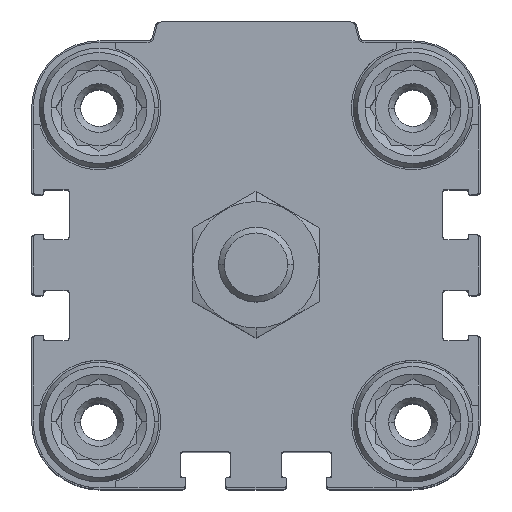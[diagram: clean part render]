
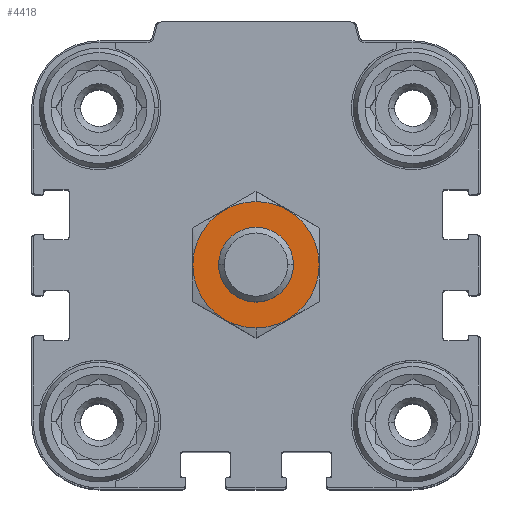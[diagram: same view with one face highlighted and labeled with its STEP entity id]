
A CAD part, top view. The second image highlights one B-rep face of the part: STEP entity #4418.
In plain terms, the highlighted planar face has unit normal (0, 0, 1).
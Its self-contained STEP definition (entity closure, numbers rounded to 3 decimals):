
#214 = VERTEX_POINT ( 'NONE', #14230 ) ;
#231 = DIRECTION ( 'NONE',  ( 0., 0., -1. ) ) ;
#630 = VERTEX_POINT ( 'NONE', #12020 ) ;
#639 = DIRECTION ( 'NONE',  ( 0., -1., 0. ) ) ;
#1060 = PLANE ( 'NONE',  #18445 ) ;
#1600 = AXIS2_PLACEMENT_3D ( 'NONE', #15425, #231, #4351 ) ;
#1620 = CIRCLE ( 'NONE', #13686, 8.45 ) ;
#1780 = ORIENTED_EDGE ( 'NONE', *, *, #18179, .T. ) ;
#2724 = VERTEX_POINT ( 'NONE', #13626 ) ;
#2969 = DIRECTION ( 'NONE',  ( 0., -1., 0. ) ) ;
#4175 = EDGE_LOOP ( 'NONE', ( #23289, #1780 ) ) ;
#4351 = DIRECTION ( 'NONE',  ( 0., -1., 0. ) ) ;
#4412 = CARTESIAN_POINT ( 'NONE',  ( 0., 0., 15.5 ) ) ;
#4418 = ADVANCED_FACE ( 'NONE', ( #21631, #4951 ), #1060, .F. ) ;
#4480 = ORIENTED_EDGE ( 'NONE', *, *, #17341, .F. ) ;
#4951 = FACE_BOUND ( 'NONE', #4175, .T. ) ;
#5554 = AXIS2_PLACEMENT_3D ( 'NONE', #11585, #6223, #18999 ) ;
#6221 = ORIENTED_EDGE ( 'NONE', *, *, #17830, .F. ) ;
#6223 = DIRECTION ( 'NONE',  ( 0., 0., -1. ) ) ;
#6378 = DIRECTION ( 'NONE',  ( 0., 0., -1. ) ) ;
#6383 = VERTEX_POINT ( 'NONE', #17268 ) ;
#8229 = CARTESIAN_POINT ( 'NONE',  ( 0., 0., 15.5 ) ) ;
#11511 = AXIS2_PLACEMENT_3D ( 'NONE', #4412, #6378, #639 ) ;
#11585 = CARTESIAN_POINT ( 'NONE',  ( 0., 0., 15.5 ) ) ;
#12020 = CARTESIAN_POINT ( 'NONE',  ( 0., -5., 15.5 ) ) ;
#13313 = CIRCLE ( 'NONE', #5554, 5. ) ;
#13626 = CARTESIAN_POINT ( 'NONE',  ( 0., -8.45, 15.5 ) ) ;
#13686 = AXIS2_PLACEMENT_3D ( 'NONE', #8229, #19415, #2969 ) ;
#14230 = CARTESIAN_POINT ( 'NONE',  ( 0., 8.45, 15.5 ) ) ;
#14323 = DIRECTION ( 'NONE',  ( 0., -1., 0. ) ) ;
#15404 = EDGE_CURVE ( 'NONE', #6383, #630, #19282, .T. ) ;
#15425 = CARTESIAN_POINT ( 'NONE',  ( 0., 0., 15.5 ) ) ;
#16147 = CARTESIAN_POINT ( 'NONE',  ( 0., 0., 15.5 ) ) ;
#17268 = CARTESIAN_POINT ( 'NONE',  ( 0., 5., 15.5 ) ) ;
#17341 = EDGE_CURVE ( 'NONE', #214, #2724, #22611, .T. ) ;
#17830 = EDGE_CURVE ( 'NONE', #2724, #214, #1620, .T. ) ;
#18179 = EDGE_CURVE ( 'NONE', #630, #6383, #13313, .T. ) ;
#18445 = AXIS2_PLACEMENT_3D ( 'NONE', #16147, #23589, #14323 ) ;
#18999 = DIRECTION ( 'NONE',  ( 0., -1., 0. ) ) ;
#19282 = CIRCLE ( 'NONE', #11511, 5. ) ;
#19415 = DIRECTION ( 'NONE',  ( 0., 0., -1. ) ) ;
#21631 = FACE_OUTER_BOUND ( 'NONE', #22341, .T. ) ;
#22341 = EDGE_LOOP ( 'NONE', ( #6221, #4480 ) ) ;
#22611 = CIRCLE ( 'NONE', #1600, 8.45 ) ;
#23289 = ORIENTED_EDGE ( 'NONE', *, *, #15404, .T. ) ;
#23589 = DIRECTION ( 'NONE',  ( 0., 0., -1. ) ) ;
